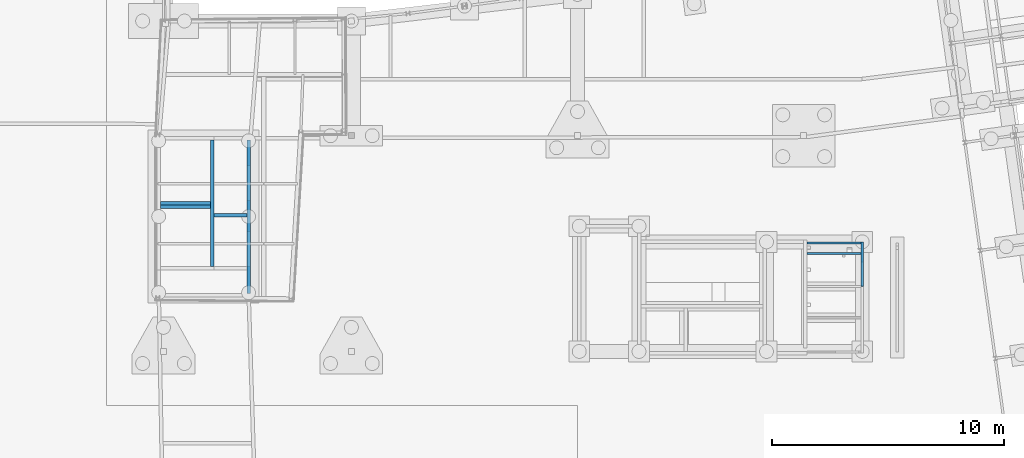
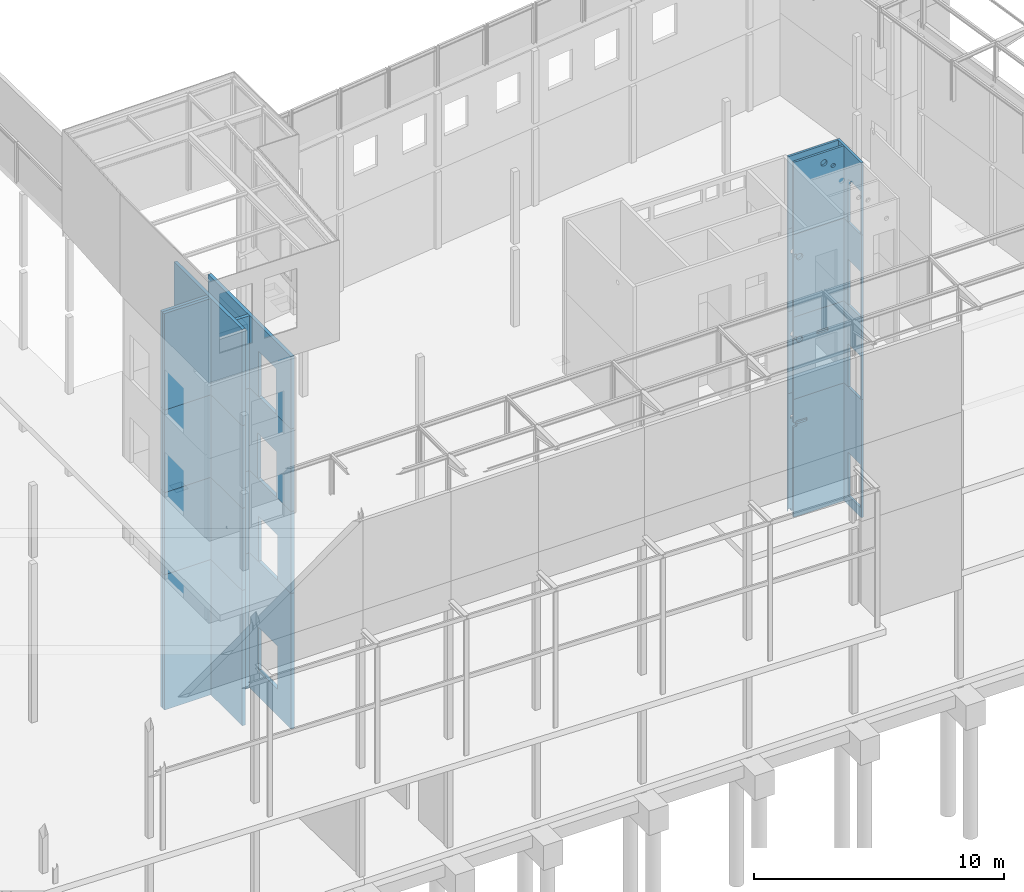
# One storey, part 76 of 82: 32 walls.
"""IFC2X3 building model written with IfcOpenShell, lengths in millimetres."""

from ifc_helpers import new_model, si_unit, frame, frame_2d, origin_with_axes, place, context, subcontext, project, spatial, polyline, rectangle, circle, outline, extrude, boolean, material, layer, layer_set, layer_usage, type_object, element, save


model = new_model("IFC2X3")

# Units and contexts
model_context = context("Model", 3, precision=1e-05, world=origin_with_axes())
body_context = subcontext(model_context, "Body", "Model", "MODEL_VIEW")
ifc_project = project(units=[si_unit("LENGTHUNIT", "METRE", prefix="MILLI"), si_unit("AREAUNIT", "SQUARE_METRE"), si_unit("VOLUMEUNIT", "CUBIC_METRE"), si_unit("MASSUNIT", "GRAM", prefix="KILO"), si_unit("TIMEUNIT", "SECOND"), si_unit("PLANEANGLEUNIT", "RADIAN"), si_unit("SOLIDANGLEUNIT", "STERADIAN"), si_unit("THERMODYNAMICTEMPERATUREUNIT", "DEGREE_CELSIUS"), si_unit("LUMINOUSINTENSITYUNIT", "LUMEN")], contexts=[model_context])

# Site, building, storey
site_placement = place(None, origin_with_axes())
site = spatial("IfcSite", under=ifc_project, at=site_placement, Name="Undefined", CompositionType="ELEMENT")
building_placement = place(site_placement, origin_with_axes())
building = spatial("IfcBuilding", under=site, at=building_placement, Name="Undefined", CompositionType="ELEMENT")
storey_placement = place(building_placement, origin_with_axes())
storey = spatial("IfcBuildingStorey", under=building, at=storey_placement, Name="Undefined", CompositionType="ELEMENT", Elevation=0.0)

# Walls
ifc_material = material(Name="CONCRETE/C25/30")
ifc_layer_1 = layer(ifc_material, 150.0)
ifc_layer_set_1 = layer_set([ifc_layer_1], Name="Wall: Insitu CONCRETE/C25/30")
ifc_layer_usage_1 = layer_usage(ifc_layer_set_1, "AXIS2", "POSITIVE", -75.0)
wall_type_1 = type_object("IfcWallType", Name="4025*150", PredefinedType="NOTDEFINED")
wall_1_placement = place(storey_placement, frame((31343.7636301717, 18415.0686918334, 9305.0), z_axis=(0.0, 0.0, 1.0), x_axis=(-2.77555756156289e-17, -1.0, 0.0)))
element("IfcWallStandardCase", 1, at=wall_1_placement, inside=storey, type_object=wall_type_1, material=ifc_layer_usage_1, Name="VOILE_15CM", ObjectType="4025*150", context=body_context, shape_type="SweptSolid", body=[
    extrude(rectangle(XDim=5449.99999996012, YDim=150.0, at=frame_2d((0.0, 2725.00000000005), x_axis=(0.0, -1.0))), frame((0.0, 0.0, 0.0), z_axis=(0.0, 0.0, 1.0), x_axis=(-2.77555756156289e-17, -1.0, 0.0)), (0.0, 0.0, 1.0), 4025.0),
])
ifc_layer_usage_2 = layer_usage(ifc_layer_set_1, "AXIS2", "POSITIVE", -75.0)
wall_2_placement = place(storey_placement, frame((31268.7636301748, 15690.0686918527, 9305.0), z_axis=(0.0, 0.0, 1.0), x_axis=(-1.0, 0.0, 0.0)))
element("IfcWallStandardCase", 2, at=wall_2_placement, inside=storey, type_object=wall_type_1, material=ifc_layer_usage_2, Name="VOILE_15CM", ObjectType="4025*150", context=body_context, shape_type="SweptSolid", body=[
    extrude(rectangle(XDim=2145.00000000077, YDim=150.0, at=frame_2d((0.0, 1072.50000000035), x_axis=(0.0, -1.0))), frame((0.0, 0.0, 0.0), z_axis=(0.0, 0.0, 1.0), x_axis=(-2.77555756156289e-17, -1.0, 0.0)), (0.0, 0.0, 1.0), 4025.0),
])
ifc_layer_usage_3 = layer_usage(ifc_layer_set_1, "AXIS2", "POSITIVE", -75.0)
wall_3_placement = place(storey_placement, frame((31268.7636301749, 15540.0686918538, 9305.0), z_axis=(0.0, 0.0, 1.0), x_axis=(-1.0, 0.0, 0.0)))
element("IfcWallStandardCase", 3, at=wall_3_placement, inside=storey, type_object=wall_type_1, material=ifc_layer_usage_3, Name="VOILE_15CM", ObjectType="4025*150", context=body_context, shape_type="SweptSolid", body=[
    extrude(rectangle(XDim=2145.00000000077, YDim=150.0, at=frame_2d((0.0, 1072.50000000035), x_axis=(0.0, -1.0))), frame((0.0, 0.0, 0.0), z_axis=(0.0, 0.0, 1.0), x_axis=(-2.77555756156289e-17, -1.0, 0.0)), (0.0, 0.0, 1.0), 4025.0),
])
ifc_layer_usage_4 = layer_usage(ifc_layer_set_1, "AXIS2", "POSITIVE", -75.0)
wall_4_placement = place(storey_placement, frame((31418.6225614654, 15175.9697770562, 9305.0), z_axis=(0.0, 0.0, 1.0), x_axis=(1.0, 0.0, 0.0)))
element("IfcWallStandardCase", 4, at=wall_4_placement, inside=storey, type_object=wall_type_1, material=ifc_layer_usage_4, Name="VOILE_15CM", ObjectType="4025*150", context=body_context, shape_type="SweptSolid", body=[
    extrude(rectangle(XDim=1429.97206241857, YDim=150.0, at=frame_2d((0.0, 715.127099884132), x_axis=(0.0, -1.0))), frame((0.0, 0.0, 0.0), z_axis=(0.0, 0.0, 1.0), x_axis=(-2.77555756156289e-17, -1.0, 0.0)), (0.0, 0.0, 1.0), 4025.0),
])
ifc_layer_usage_5 = layer_usage(ifc_layer_set_1, "AXIS2", "POSITIVE", -75.0)
wall_5_placement = place(storey_placement, frame((32923.7356925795, 11644.9226520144, 9305.0), z_axis=(0.0, 0.0, 1.0), x_axis=(0.0, 1.0, 0.0)))
element("IfcWallStandardCase", 5, at=wall_5_placement, inside=storey, type_object=wall_type_1, material=ifc_layer_usage_5, Name="VOILE_15CM", ObjectType="4025*150", context=body_context, shape_type="CSG", body=[
    boolean("DIFFERENCE", boolean("DIFFERENCE", extrude(rectangle(XDim=6620.14607964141, YDim=150.0, at=frame_2d((0.0, 3460.07299997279), x_axis=(0.0, -1.0))), frame((0.0, 0.0, 0.0), z_axis=(0.0, 0.0, 1.0), x_axis=(-2.77555756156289e-17, -1.0, 0.0)), (0.0, 0.0, 1.0), 4025.0), extrude(outline(polyline([(5.17284206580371e-08, 4.49290382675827e-10), (2220.0, -4.22005541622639e-10), (2220.0, 1499.99999999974), (0.0, 1499.99999999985), (5.17284206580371e-08, 4.49290382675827e-10)])), frame((4164.16465607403, 85.0000000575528, 2220.0), z_axis=(-2.77555756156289e-17, -1.0, 0.0), x_axis=(0.0, -6.50000002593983e-08, -0.999999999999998)), (0.0, 0.0, 1.0), 170.0)), extrude(outline(polyline([(5.17284206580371e-08, 4.49290382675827e-10), (2220.0, -4.22005541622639e-10), (2220.0, 1499.99999999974), (0.0, 1499.99999999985), (5.17284206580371e-08, 4.49290382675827e-10)])), frame((1320.14820569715, 85.0000000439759, 2220.0), z_axis=(-2.77555756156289e-17, -1.0, 0.0), x_axis=(0.0, -6.50000002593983e-08, -0.999999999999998)), (0.0, 0.0, 1.0), 170.0)),
])
ifc_layer_usage_6 = layer_usage(ifc_layer_set_1, "AXIS2", "POSITIVE", -75.0)
wall_type_2 = type_object("IfcWallType", Name="4005*150", PredefinedType="NOTDEFINED")
wall_6_placement = place(storey_placement, frame((31343.76363017, 18415.0686918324, 5300.0), z_axis=(0.0, 0.0, 1.0), x_axis=(-2.77555756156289e-17, -1.0, 0.0)))
element("IfcWallStandardCase", 6, at=wall_6_placement, inside=storey, type_object=wall_type_2, material=ifc_layer_usage_6, Name="VOILE_15CM", ObjectType="4005*150", context=body_context, shape_type="SweptSolid", body=[
    extrude(rectangle(XDim=5449.99999995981, YDim=150.0, at=frame_2d((0.0, 2725.00000000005), x_axis=(0.0, -1.0))), frame((0.0, 0.0, 0.0), z_axis=(0.0, 0.0, 1.0), x_axis=(-2.77555756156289e-17, -1.0, 0.0)), (0.0, 0.0, 1.0), 4005.0),
])
ifc_layer_usage_7 = layer_usage(ifc_layer_set_1, "AXIS2", "POSITIVE", -75.0)
wall_7_placement = place(storey_placement, frame((31268.763630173, 15690.0686918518, 5300.0), z_axis=(0.0, 0.0, 1.0), x_axis=(-1.0, 0.0, 0.0)))
element("IfcWallStandardCase", 7, at=wall_7_placement, inside=storey, type_object=wall_type_2, material=ifc_layer_usage_7, Name="VOILE_15CM", ObjectType="4005*150", context=body_context, shape_type="SweptSolid", body=[
    extrude(rectangle(XDim=2145.00000000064, YDim=150.0, at=frame_2d((0.0, 1072.50000000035), x_axis=(0.0, -1.0))), frame((0.0, 0.0, 0.0), z_axis=(0.0, 0.0, 1.0), x_axis=(-2.77555756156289e-17, -1.0, 0.0)), (0.0, 0.0, 1.0), 4005.0),
])
ifc_layer_usage_8 = layer_usage(ifc_layer_set_1, "AXIS2", "POSITIVE", -75.0)
wall_8_placement = place(storey_placement, frame((31268.7636301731, 15540.0686918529, 5300.0), z_axis=(0.0, 0.0, 1.0), x_axis=(-1.0, 0.0, 0.0)))
element("IfcWallStandardCase", 8, at=wall_8_placement, inside=storey, type_object=wall_type_2, material=ifc_layer_usage_8, Name="VOILE_15CM", ObjectType="4005*150", context=body_context, shape_type="SweptSolid", body=[
    extrude(rectangle(XDim=2145.00000000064, YDim=150.0, at=frame_2d((0.0, 1072.50000000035), x_axis=(0.0, -1.0))), frame((0.0, 0.0, 0.0), z_axis=(0.0, 0.0, 1.0), x_axis=(-2.77555756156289e-17, -1.0, 0.0)), (0.0, 0.0, 1.0), 4005.0),
])
ifc_layer_usage_9 = layer_usage(ifc_layer_set_1, "AXIS2", "POSITIVE", -75.0)
wall_9_placement = place(storey_placement, frame((31418.6225614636, 15175.9697770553, 5300.0), z_axis=(0.0, 0.0, 1.0), x_axis=(1.0, 0.0, 0.0)))
element("IfcWallStandardCase", 9, at=wall_9_placement, inside=storey, type_object=wall_type_2, material=ifc_layer_usage_9, Name="VOILE_15CM", ObjectType="4005*150", context=body_context, shape_type="SweptSolid", body=[
    extrude(rectangle(XDim=1429.97206241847, YDim=150.0, at=frame_2d((0.0, 715.127099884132), x_axis=(0.0, -1.0))), frame((0.0, 0.0, 0.0), z_axis=(0.0, 0.0, 1.0), x_axis=(-2.77555756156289e-17, -1.0, 0.0)), (0.0, 0.0, 1.0), 4005.0),
])
ifc_layer_usage_10 = layer_usage(ifc_layer_set_1, "AXIS2", "POSITIVE", -75.0)
wall_10_placement = place(storey_placement, frame((32923.7356925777, 11644.9226520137, 5300.0), z_axis=(0.0, 0.0, 1.0), x_axis=(0.0, 1.0, 0.0)))
element("IfcWallStandardCase", 10, at=wall_10_placement, inside=storey, type_object=wall_type_2, material=ifc_layer_usage_10, Name="VOILE_15CM", ObjectType="4005*150", context=body_context, shape_type="CSG", body=[
    boolean("DIFFERENCE", boolean("DIFFERENCE", extrude(rectangle(XDim=6620.14607964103, YDim=150.0, at=frame_2d((0.0, 3460.07299997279), x_axis=(0.0, -1.0))), frame((0.0, 0.0, 0.0), z_axis=(0.0, 0.0, 1.0), x_axis=(-2.77555756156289e-17, -1.0, 0.0)), (0.0, 0.0, 1.0), 4005.0), extrude(outline(polyline([(5.17284206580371e-08, 4.49290382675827e-10), (2200.0, 1.09139364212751e-11), (2200.0, 1499.99999999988), (0.0, 1499.99999999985), (5.17284206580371e-08, 4.49290382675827e-10)])), frame((4164.16465616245, 85.0000000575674, 2200.0), z_axis=(-2.77555756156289e-17, -1.0, 0.0), x_axis=(0.0, -6.50000002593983e-08, -0.999999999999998)), (0.0, 0.0, 1.0), 170.0)), extrude(outline(polyline([(5.17284206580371e-08, 4.49290382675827e-10), (2200.0, 1.09139364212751e-11), (2200.0, 1499.99999999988), (0.0, 1499.99999999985), (5.17284206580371e-08, 4.49290382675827e-10)])), frame((1250.0182056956, 85.0000000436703, 2200.0), z_axis=(-2.77555756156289e-17, -1.0, 0.0), x_axis=(0.0, -6.50000002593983e-08, -0.999999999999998)), (0.0, 0.0, 1.0), 170.0)),
])
ifc_layer_usage_11 = layer_usage(ifc_layer_set_1, "AXIS2", "POSITIVE", -75.0)
wall_type_3 = type_object("IfcWallType", Name="3530*150", PredefinedType="NOTDEFINED")
wall_11_placement = place(storey_placement, frame((31418.6225614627, 15175.9697770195, 13330.0), z_axis=(0.0, 0.0, 1.0), x_axis=(1.0, 0.0, 0.0)))
element("IfcWallStandardCase", 11, at=wall_11_placement, inside=storey, type_object=wall_type_3, material=ifc_layer_usage_11, Name="VOILE_15CM", ObjectType="3530*150", context=body_context, shape_type="SweptSolid", body=[
    extrude(rectangle(XDim=1429.97206242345, YDim=150.0, at=frame_2d((0.0, 715.127099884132), x_axis=(0.0, -1.0))), frame((0.0, 0.0, 0.0), z_axis=(0.0, 0.0, 1.0), x_axis=(-2.77555756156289e-17, -1.0, 0.0)), (0.0, 0.0, 1.0), 3530.0),
])
ifc_layer_usage_12 = layer_usage(ifc_layer_set_1, "AXIS2", "POSITIVE", -75.0)
wall_12_placement = place(storey_placement, frame((32923.7356925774, 11644.9226519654, 13330.0), z_axis=(0.0, 0.0, 1.0), x_axis=(0.0, 1.0, 0.0)))
element("IfcWallStandardCase", 12, at=wall_12_placement, inside=storey, type_object=wall_type_3, material=ifc_layer_usage_12, Name="VOILE_15CM", ObjectType="3530*150", context=body_context, shape_type="CSG", body=[
    boolean("DIFFERENCE", boolean("DIFFERENCE", extrude(rectangle(XDim=6620.14607963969, YDim=150.0, at=frame_2d((0.0, 3460.07299997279), x_axis=(0.0, -1.0))), frame((0.0, 0.0, 0.0), z_axis=(0.0, 0.0, 1.0), x_axis=(-2.77555756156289e-17, -1.0, 0.0)), (0.0, 0.0, 1.0), 3530.0), extrude(outline(polyline([(5.17284206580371e-08, 4.49290382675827e-10), (2220.0, -4.22005541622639e-10), (2220.0, 1499.99999999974), (0.0, 1499.99999999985), (5.17284206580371e-08, 4.49290382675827e-10)])), frame((4164.16465607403, 85.0000000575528, 2220.0), z_axis=(-2.77555756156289e-17, -1.0, 0.0), x_axis=(0.0, -6.50000002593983e-08, -0.999999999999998)), (0.0, 0.0, 1.0), 170.0)), extrude(outline(polyline([(5.17284206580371e-08, 4.49290382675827e-10), (2220.0, -4.22005541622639e-10), (2220.0, 1395.99999999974), (0.0, 1395.99999999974), (5.17284206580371e-08, 4.49290382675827e-10)])), frame((1354.10048047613, 85.0000000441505, 2220.0), z_axis=(-2.77555756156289e-17, -1.0, 0.0), x_axis=(0.0, -6.50000002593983e-08, -0.999999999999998)), (0.0, 0.0, 1.0), 170.0)),
])
ifc_layer_2 = layer(ifc_material, 100.0)
ifc_layer_set_2 = layer_set([ifc_layer_2], Name="Wall: Insitu CONCRETE/C25/30")
ifc_layer_usage_13 = layer_usage(ifc_layer_set_2, "AXIS2", "POSITIVE", -50.0)
wall_type_4 = type_object("IfcWallType", Name="3530*100", PredefinedType="NOTDEFINED")
wall_13_placement = place(storey_placement, frame((56999.9999999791, 13974.9999999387, 13330.0), z_axis=(0.0, 0.0, 1.0), x_axis=(1.0, 0.0, 0.0)))
element("IfcWallStandardCase", 13, at=wall_13_placement, inside=storey, type_object=wall_type_4, material=ifc_layer_usage_13, Name="VOILE_10CM", ObjectType="3530*100", context=body_context, shape_type="CSG", body=[
    boolean("DIFFERENCE", extrude(rectangle(XDim=2324.99999997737, YDim=100.0, at=frame_2d((0.0, 1162.49999998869), x_axis=(0.0, -1.0))), frame((0.0, 0.0, 0.0), z_axis=(0.0, 0.0, 1.0), x_axis=(-2.77555756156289e-17, -1.0, 0.0)), (0.0, 0.0, 1.0), 3530.0), extrude(circle(Radius=150.0, at=frame_2d((5.17284206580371e-08, 4.49290382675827e-10), x_axis=(1.0, 0.0))), frame((1400.085479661, -60.0, 3020.00163269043), z_axis=(0.0, 1.0, 0.0), x_axis=(-1.0, 0.0, 0.0)), (0.0, 0.0, 1.0), 120.0)),
])
ifc_layer_usage_14 = layer_usage(ifc_layer_set_2, "AXIS2", "POSITIVE", -50.0)
wall_14_placement = place(storey_placement, frame((56999.9999999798, 13524.9999999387, 13329.999957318), z_axis=(0.0, 0.0, 1.0), x_axis=(1.0, 0.0, 0.0)))
element("IfcWallStandardCase", 14, at=wall_14_placement, inside=storey, type_object=wall_type_4, material=ifc_layer_usage_14, Name="VOILE_10CM", ObjectType="3530*100", context=body_context, shape_type="CSG", body=[
    boolean("DIFFERENCE", boolean("DIFFERENCE", extrude(rectangle(XDim=2324.99999997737, YDim=100.0, at=frame_2d((0.0, 1162.49999998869), x_axis=(0.0, -1.0))), frame((0.0, 0.0, 0.0), z_axis=(0.0, 0.0, 1.0), x_axis=(-2.77555756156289e-17, -1.0, 0.0)), (0.0, 0.0, 1.0), 3530.0), extrude(circle(Radius=150.0, at=frame_2d((5.17284206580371e-08, 4.49290382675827e-10), x_axis=(1.0, 0.0))), frame((1400.08319085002, -60.0, 3020.00167537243), z_axis=(0.0, 1.0, 0.0), x_axis=(-1.0, 0.0, 0.0)), (0.0, 0.0, 1.0), 120.0)), extrude(circle(Radius=100.0, at=frame_2d((5.17284206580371e-08, 4.49290382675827e-10), x_axis=(1.0, 0.0))), frame((1824.8916930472, -60.0, 2744.58053279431), z_axis=(0.0, 1.0, 0.0), x_axis=(-1.0, 0.0, 0.0)), (0.0, 0.0, 1.0), 120.0)),
])
ifc_layer_usage_15 = layer_usage(ifc_layer_set_2, "AXIS2", "POSITIVE", -50.0)
wall_15_placement = place(storey_placement, frame((59374.9999999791, 14024.9999999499, 13330.0), z_axis=(0.0, 0.0, 1.0), x_axis=(-2.77555756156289e-17, -1.0, 0.0)))
element("IfcWallStandardCase", 15, at=wall_15_placement, inside=storey, type_object=wall_type_4, material=ifc_layer_usage_15, Name="VOILE_10CM", ObjectType="3530*100", context=body_context, shape_type="CSG", body=[
    boolean("DIFFERENCE", boolean("DIFFERENCE", boolean("DIFFERENCE", extrude(rectangle(XDim=1925.00000000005, YDim=100.0, at=frame_2d((0.0, 962.500000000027), x_axis=(0.0, -1.0))), frame((0.0, 0.0, 0.0), z_axis=(0.0, 0.0, 1.0), x_axis=(-2.77555756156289e-17, -1.0, 0.0)), (0.0, 0.0, 1.0), 3530.0), extrude(circle(Radius=75.0, at=frame_2d((5.17284206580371e-08, 4.49290382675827e-10), x_axis=(1.0, 0.0))), frame((263.99996969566, -60.0, 3477.5192565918), z_axis=(0.0, 1.0, 0.0), x_axis=(-1.0, 0.0, 0.0)), (0.0, 0.0, 1.0), 120.0)), extrude(outline(polyline([(5.17284206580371e-08, 4.49290382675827e-10), (2100.0, 5.82076609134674e-11), (2100.0, 1000.00000000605), (0.0, 1000.00000000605), (5.17284206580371e-08, 4.49290382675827e-10)])), frame((1875.00000014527, -60.0000000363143, 2100.0), z_axis=(0.0, 1.0, 0.0), x_axis=(0.0, -6.50000002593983e-08, -0.999999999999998)), (0.0, 0.0, 1.0), 120.0)), extrude(rectangle(XDim=1000.0, YDim=105.0692008, at=frame_2d((5.17284206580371e-08, 4.49290382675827e-10), x_axis=(1.0, 0.0))), frame((1375.00000001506, 150.00000000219, -52.5346004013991), z_axis=(-2.77555756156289e-17, -1.0, 0.0), x_axis=(1.0, 0.0, 0.0)), (0.0, 0.0, 1.0), 137.4)),
])
ifc_layer_usage_16 = layer_usage(ifc_layer_set_1, "AXIS2", "POSITIVE", -75.0)
wall_type_5 = type_object("IfcWallType", Name="4700*150", PredefinedType="NOTDEFINED")
wall_16_placement = place(storey_placement, frame((31343.7636301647, 18415.0686917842, 13330.0), z_axis=(0.0, 0.0, 1.0), x_axis=(-2.77555756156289e-17, -1.0, 0.0)))
element("IfcWallStandardCase", 16, at=wall_16_placement, inside=storey, type_object=wall_type_5, material=ifc_layer_usage_16, Name="VOILE_15CM", ObjectType="4700*150", context=body_context, shape_type="SweptSolid", body=[
    extrude(rectangle(XDim=5450.00000000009, YDim=150.0, at=frame_2d((0.0, 2725.00000000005), x_axis=(0.0, -1.0))), frame((0.0, 0.0, 0.0), z_axis=(0.0, 0.0, 1.0), x_axis=(-2.77555756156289e-17, -1.0, 0.0)), (0.0, 0.0, 1.0), 4700.0),
])
ifc_layer_usage_17 = layer_usage(ifc_layer_set_1, "AXIS2", "POSITIVE", -75.0)
wall_17_placement = place(storey_placement, frame((31268.763630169, 15690.068691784, 13330.0), z_axis=(0.0, 0.0, 1.0), x_axis=(-1.0, 0.0, 0.0)))
element("IfcWallStandardCase", 17, at=wall_17_placement, inside=storey, type_object=wall_type_5, material=ifc_layer_usage_17, Name="VOILE_15CM", ObjectType="4700*150", context=body_context, shape_type="SweptSolid", body=[
    extrude(rectangle(XDim=2145.00000000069, YDim=150.0, at=frame_2d((0.0, 1072.50000000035), x_axis=(0.0, -1.0))), frame((0.0, 0.0, 0.0), z_axis=(0.0, 0.0, 1.0), x_axis=(-2.77555756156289e-17, -1.0, 0.0)), (0.0, 0.0, 1.0), 4700.0),
])
ifc_layer_usage_18 = layer_usage(ifc_layer_set_1, "AXIS2", "POSITIVE", -75.0)
wall_18_placement = place(storey_placement, frame((31268.7636301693, 15540.068691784, 13330.0), z_axis=(0.0, 0.0, 1.0), x_axis=(-1.0, 0.0, 0.0)))
element("IfcWallStandardCase", 18, at=wall_18_placement, inside=storey, type_object=wall_type_5, material=ifc_layer_usage_18, Name="VOILE_15CM", ObjectType="4700*150", context=body_context, shape_type="SweptSolid", body=[
    extrude(rectangle(XDim=2145.00000000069, YDim=150.0, at=frame_2d((0.0, 1072.50000000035), x_axis=(0.0, -1.0))), frame((0.0, 0.0, 0.0), z_axis=(0.0, 0.0, 1.0), x_axis=(-2.77555756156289e-17, -1.0, 0.0)), (0.0, 0.0, 1.0), 4700.0),
])
ifc_layer_usage_19 = layer_usage(ifc_layer_set_2, "AXIS2", "POSITIVE", -50.0)
wall_type_6 = type_object("IfcWallType", Name="4025*100", PredefinedType="NOTDEFINED")
wall_19_placement = place(storey_placement, frame((56999.9999999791, 13974.9999999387, 9305.0), z_axis=(0.0, 0.0, 1.0), x_axis=(1.0, 0.0, 0.0)))
element("IfcWallStandardCase", 19, at=wall_19_placement, inside=storey, type_object=wall_type_6, material=ifc_layer_usage_19, Name="VOILE_10CM", ObjectType="4025*100", context=body_context, shape_type="CSG", body=[
    boolean("DIFFERENCE", extrude(rectangle(XDim=2324.99999997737, YDim=100.0, at=frame_2d((0.0, 1162.49999998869), x_axis=(0.0, -1.0))), frame((0.0, 0.0, 0.0), z_axis=(0.0, 0.0, 1.0), x_axis=(-2.77555756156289e-17, -1.0, 0.0)), (0.0, 0.0, 1.0), 4025.0), extrude(circle(Radius=150.0, at=frame_2d((5.17284206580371e-08, 4.49290382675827e-10), x_axis=(1.0, 0.0))), frame((273.545422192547, -60.0, 2870.00038146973), z_axis=(0.0, 1.0, 0.0), x_axis=(-1.0, 0.0, 0.0)), (0.0, 0.0, 1.0), 120.0)),
])
ifc_layer_usage_20 = layer_usage(ifc_layer_set_2, "AXIS2", "POSITIVE", -50.0)
wall_20_placement = place(storey_placement, frame((56999.9999999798, 13524.9999999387, 9304.999957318), z_axis=(0.0, 0.0, 1.0), x_axis=(1.0, 0.0, 0.0)))
element("IfcWallStandardCase", 20, at=wall_20_placement, inside=storey, type_object=wall_type_6, material=ifc_layer_usage_20, Name="VOILE_10CM", ObjectType="4025*100", context=body_context, shape_type="CSG", body=[
    boolean("DIFFERENCE", boolean("DIFFERENCE", extrude(rectangle(XDim=2324.99999997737, YDim=100.0, at=frame_2d((0.0, 1162.49999998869), x_axis=(0.0, -1.0))), frame((0.0, 0.0, 0.0), z_axis=(0.0, 0.0, 1.0), x_axis=(-2.77555756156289e-17, -1.0, 0.0)), (0.0, 0.0, 1.0), 4025.0), extrude(circle(Radius=150.0, at=frame_2d((5.17284206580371e-08, 4.49290382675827e-10), x_axis=(1.0, 0.0))), frame((273.568310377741, -60.0, 2870.00042415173), z_axis=(0.0, 1.0, 0.0), x_axis=(-1.0, 0.0, 0.0)), (0.0, 0.0, 1.0), 120.0)), extrude(circle(Radius=70.0, at=frame_2d((5.17284206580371e-08, 4.49290382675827e-10), x_axis=(1.0, 0.0))), frame((73.9988310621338, -60.0, 2992.51825404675), z_axis=(0.0, 1.0, 0.0), x_axis=(-1.0, 0.0, 0.0)), (0.0, 0.0, 1.0), 120.0)),
])
ifc_layer_usage_21 = layer_usage(ifc_layer_set_2, "AXIS2", "POSITIVE", -50.0)
wall_21_placement = place(storey_placement, frame((59374.9999999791, 14024.9999999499, 9305.0), z_axis=(0.0, 0.0, 1.0), x_axis=(-2.77555756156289e-17, -1.0, 0.0)))
element("IfcWallStandardCase", 21, at=wall_21_placement, inside=storey, type_object=wall_type_6, material=ifc_layer_usage_21, Name="VOILE_10CM", ObjectType="4025*100", context=body_context, shape_type="CSG", body=[
    boolean("DIFFERENCE", boolean("DIFFERENCE", extrude(rectangle(XDim=1925.00000000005, YDim=100.0, at=frame_2d((0.0, 962.500000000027), x_axis=(0.0, -1.0))), frame((0.0, 0.0, 0.0), z_axis=(0.0, 0.0, 1.0), x_axis=(-2.77555756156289e-17, -1.0, 0.0)), (0.0, 0.0, 1.0), 4025.0), extrude(outline(polyline([(5.17284206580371e-08, 4.49290382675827e-10), (2200.0, 1.09139364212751e-11), (2200.0, 1000.00000000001), (0.0, 1000.00000000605), (5.17284206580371e-08, 4.49290382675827e-10)])), frame((1875.00000014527, -60.0000000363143, 2200.0), z_axis=(0.0, 1.0, 0.0), x_axis=(0.0, -6.50000002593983e-08, -0.999999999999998)), (0.0, 0.0, 1.0), 120.0)), extrude(rectangle(XDim=1000.0, YDim=105.0692008, at=frame_2d((5.17284206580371e-08, 4.49290382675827e-10), x_axis=(1.0, 0.0))), frame((1375.00000001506, 150.00000000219, -52.5346004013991), z_axis=(-2.77555756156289e-17, -1.0, 0.0), x_axis=(1.0, 0.0, 0.0)), (0.0, 0.0, 1.0), 137.4)),
])
ifc_layer_usage_22 = layer_usage(ifc_layer_set_2, "AXIS2", "POSITIVE", -50.0)
wall_type_7 = type_object("IfcWallType", Name="4005*100", PredefinedType="NOTDEFINED")
wall_22_placement = place(storey_placement, frame((56999.9999999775, 13974.9999999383, 5300.0), z_axis=(0.0, 0.0, 1.0), x_axis=(1.0, 0.0, 0.0)))
element("IfcWallStandardCase", 22, at=wall_22_placement, inside=storey, type_object=wall_type_7, material=ifc_layer_usage_22, Name="VOILE_10CM", ObjectType="4005*100", context=body_context, shape_type="CSG", body=[
    boolean("DIFFERENCE", boolean("DIFFERENCE", extrude(rectangle(XDim=2325.00000000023, YDim=100.0, at=frame_2d((0.0, 1162.49999998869), x_axis=(0.0, -1.0))), frame((0.0, 0.0, 0.0), z_axis=(0.0, 0.0, 1.0), x_axis=(-2.77555756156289e-17, -1.0, 0.0)), (0.0, 0.0, 1.0), 4005.0), extrude(circle(Radius=150.0, at=frame_2d((5.17284206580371e-08, 4.49290382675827e-10), x_axis=(1.0, 0.0))), frame((273.833431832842, -60.0, 2850.00076293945), z_axis=(0.0, 1.0, 0.0), x_axis=(-1.0, 0.0, 0.0)), (0.0, 0.0, 1.0), 120.0)), extrude(rectangle(XDim=500.0, YDim=150.0, at=frame_2d((5.17284206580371e-08, 4.49290382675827e-10), x_axis=(1.0, 0.0))), frame((1336.0000914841, -60.0, 2890.00083160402), z_axis=(0.0, 1.0, 0.0), x_axis=(-1.0, 0.0, 0.0)), (0.0, 0.0, 1.0), 120.0)),
])
ifc_layer_usage_23 = layer_usage(ifc_layer_set_2, "AXIS2", "POSITIVE", -50.0)
wall_23_placement = place(storey_placement, frame((56999.9999999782, 13524.9999999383, 5299.999957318), z_axis=(0.0, 0.0, 1.0), x_axis=(1.0, 0.0, 0.0)))
element("IfcWallStandardCase", 23, at=wall_23_placement, inside=storey, type_object=wall_type_7, material=ifc_layer_usage_23, Name="VOILE_10CM", ObjectType="4005*100", context=body_context, shape_type="CSG", body=[
    boolean("DIFFERENCE", boolean("DIFFERENCE", boolean("DIFFERENCE", extrude(rectangle(XDim=2325.00000000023, YDim=100.0, at=frame_2d((0.0, 1162.49999998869), x_axis=(0.0, -1.0))), frame((0.0, 0.0, 0.0), z_axis=(0.0, 0.0, 1.0), x_axis=(-2.77555756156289e-17, -1.0, 0.0)), (0.0, 0.0, 1.0), 4005.0), extrude(circle(Radius=150.0, at=frame_2d((5.17284206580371e-08, 4.49290382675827e-10), x_axis=(1.0, 0.0))), frame((274.083294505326, -60.0, 2850.00080562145), z_axis=(0.0, 1.0, 0.0), x_axis=(-1.0, 0.0, 0.0)), (0.0, 0.0, 1.0), 120.0)), extrude(circle(Radius=70.0, at=frame_2d((5.17284206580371e-08, 4.49290382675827e-10), x_axis=(1.0, 0.0))), frame((74.530758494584, -60.0, 2971.62502742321), z_axis=(0.0, 1.0, 0.0), x_axis=(-1.0, 0.0, 0.0)), (0.0, 0.0, 1.0), 120.0)), extrude(rectangle(XDim=500.0, YDim=150.0, at=frame_2d((5.17284206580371e-08, 4.49290382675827e-10), x_axis=(1.0, 0.0))), frame((1335.99780266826, -60.0, 2890.00087428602), z_axis=(0.0, 1.0, 0.0), x_axis=(-1.0, 0.0, 0.0)), (0.0, 0.0, 1.0), 120.0)),
])
ifc_layer_usage_24 = layer_usage(ifc_layer_set_2, "AXIS2", "POSITIVE", -50.0)
wall_24_placement = place(storey_placement, frame((59374.9999999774, 14024.9999999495, 5300.0), z_axis=(0.0, 0.0, 1.0), x_axis=(-2.77555756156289e-17, -1.0, 0.0)))
element("IfcWallStandardCase", 24, at=wall_24_placement, inside=storey, type_object=wall_type_7, material=ifc_layer_usage_24, Name="VOILE_10CM", ObjectType="4005*100", context=body_context, shape_type="CSG", body=[
    boolean("DIFFERENCE", boolean("DIFFERENCE", extrude(rectangle(XDim=1925.0, YDim=100.0, at=frame_2d((0.0, 962.500000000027), x_axis=(0.0, -1.0))), frame((0.0, 0.0, 0.0), z_axis=(0.0, 0.0, 1.0), x_axis=(-2.77555756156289e-17, -1.0, 0.0)), (0.0, 0.0, 1.0), 4005.0), extrude(outline(polyline([(5.17284206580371e-08, 4.49290382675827e-10), (2100.0, 5.82076609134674e-11), (2100.0, 1000.00000000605), (0.0, 1000.00000000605), (5.17284206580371e-08, 4.49290382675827e-10)])), frame((1875.00000014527, -60.0000000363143, 2100.0), z_axis=(0.0, 1.0, 0.0), x_axis=(0.0, -6.50000002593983e-08, -0.999999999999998)), (0.0, 0.0, 1.0), 120.0)), extrude(rectangle(XDim=1000.0, YDim=105.0692008, at=frame_2d((5.17284206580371e-08, 4.49290382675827e-10), x_axis=(1.0, 0.0))), frame((1375.00000001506, 150.00000000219, -52.5346004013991), z_axis=(-2.77555756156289e-17, -1.0, 0.0), x_axis=(1.0, 0.0, 0.0)), (0.0, 0.0, 1.0), 137.4)),
])
ifc_layer_usage_25 = layer_usage(ifc_layer_set_2, "AXIS2", "POSITIVE", -50.0)
wall_type_8 = type_object("IfcWallType", Name="5750*100", PredefinedType="NOTDEFINED")
wall_25_placement = place(storey_placement, frame((59374.9999999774, 14024.9999999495, -450.0), z_axis=(0.0, 0.0, 1.0), x_axis=(-2.77555756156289e-17, -1.0, 0.0)))
element("IfcWallStandardCase", 25, at=wall_25_placement, inside=storey, type_object=wall_type_8, material=ifc_layer_usage_25, Name="VOILE_10CM", ObjectType="5750*100", context=body_context, shape_type="CSG", body=[
    boolean("DIFFERENCE", boolean("DIFFERENCE", extrude(rectangle(XDim=1925.0, YDim=100.0, at=frame_2d((0.0, 962.500000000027), x_axis=(0.0, -1.0))), frame((0.0, 0.0, 0.0), z_axis=(0.0, 0.0, 1.0), x_axis=(-2.77555756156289e-17, -1.0, 0.0)), (0.0, 0.0, 1.0), 5750.0), extrude(outline(polyline([(5.17284206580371e-08, 4.49290382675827e-10), (2100.0, 5.82076609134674e-11), (2100.0, 1000.00000000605), (0.0, 1000.00000000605), (5.17284206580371e-08, 4.49290382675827e-10)])), frame((1875.00000014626, -60.0000000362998, 2550.0), z_axis=(0.0, 1.0, 0.0), x_axis=(0.0, -6.50000002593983e-08, -0.999999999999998)), (0.0, 0.0, 1.0), 120.0)), extrude(rectangle(XDim=1000.0, YDim=105.0692008, at=frame_2d((5.17284206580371e-08, 4.49290382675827e-10), x_axis=(1.0, 0.0))), frame((1375.00000001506, 150.00000000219, -52.5346004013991), z_axis=(-2.77555756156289e-17, -1.0, 0.0), x_axis=(1.0, 0.0, 0.0)), (0.0, 0.0, 1.0), 137.4)),
])
ifc_layer_usage_26 = layer_usage(ifc_layer_set_2, "AXIS2", "POSITIVE", -50.0)
wall_26_placement = place(storey_placement, frame((56999.9999999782, 13524.9999999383, -450.000042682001), z_axis=(0.0, 0.0, 1.0), x_axis=(1.0, 0.0, 0.0)))
element("IfcWallStandardCase", 26, at=wall_26_placement, inside=storey, type_object=wall_type_8, material=ifc_layer_usage_26, Name="VOILE_10CM", ObjectType="5750*100", context=body_context, shape_type="CSG", body=[
    boolean("DIFFERENCE", boolean("DIFFERENCE", extrude(rectangle(XDim=2325.00000000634, YDim=100.0, at=frame_2d((0.0, 1162.49999998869), x_axis=(0.0, -1.0))), frame((0.0, 0.0, 0.0), z_axis=(0.0, 0.0, 1.0), x_axis=(-2.77555756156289e-17, -1.0, 0.0)), (0.0, 0.0, 1.0), 5750.0), extrude(rectangle(XDim=150.0, YDim=200.0, at=frame_2d((5.17284206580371e-08, 4.49290382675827e-10), x_axis=(1.0, 0.0))), frame((74.9987487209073, -60.0, 4499.96577453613), z_axis=(0.0, 1.0, 0.0), x_axis=(-1.0, 0.0, 0.0)), (0.0, 0.0, 1.0), 120.0)), extrude(rectangle(XDim=500.0, YDim=150.0, at=frame_2d((5.17284206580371e-08, 4.49290382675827e-10), x_axis=(1.0, 0.0))), frame((368.997222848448, -60.0, 4589.99968719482), z_axis=(0.0, 1.0, 0.0), x_axis=(-1.0, 0.0, 0.0)), (0.0, 0.0, 1.0), 120.0)),
])
ifc_layer_usage_27 = layer_usage(ifc_layer_set_2, "AXIS2", "POSITIVE", -50.0)
wall_27_placement = place(storey_placement, frame((56999.9999999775, 13974.9999999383, -450.0), z_axis=(0.0, 0.0, 1.0), x_axis=(1.0, 0.0, 0.0)))
element("IfcWallStandardCase", 27, at=wall_27_placement, inside=storey, type_object=wall_type_8, material=ifc_layer_usage_27, Name="VOILE_10CM", ObjectType="5750*100", context=body_context, shape_type="CSG", body=[
    boolean("DIFFERENCE", boolean("DIFFERENCE", extrude(rectangle(XDim=2325.00000000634, YDim=100.0, at=frame_2d((0.0, 1162.49999998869), x_axis=(0.0, -1.0))), frame((0.0, 0.0, 0.0), z_axis=(0.0, 0.0, 1.0), x_axis=(-2.77555756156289e-17, -1.0, 0.0)), (0.0, 0.0, 1.0), 5750.0), extrude(rectangle(XDim=130.0, YDim=130.0, at=frame_2d((5.17284206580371e-08, 4.49290382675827e-10), x_axis=(1.0, 0.0))), frame((73.9986082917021, -60.0, 63.5570526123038), z_axis=(0.0, 1.0, 0.0), x_axis=(-1.0, 0.0, 0.0)), (0.0, 0.0, 1.0), 120.0)), extrude(rectangle(XDim=500.0, YDim=150.0, at=frame_2d((5.17284206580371e-08, 4.49290382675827e-10), x_axis=(1.0, 0.0))), frame((368.999511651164, -60.0, 4589.99968719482), z_axis=(0.0, 1.0, 0.0), x_axis=(-1.0, 0.0, 0.0)), (0.0, 0.0, 1.0), 120.0)),
])
ifc_layer_usage_28 = layer_usage(ifc_layer_set_1, "AXIS2", "POSITIVE", -75.0)
wall_type_9 = type_object("IfcWallType", Name="6600*150", PredefinedType="NOTDEFINED")
wall_28_placement = place(storey_placement, frame((31268.7636301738, 15690.0686918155, -1300.0), z_axis=(0.0, 0.0, 1.0), x_axis=(-1.0, 0.0, 0.0)))
element("IfcWallStandardCase", 28, at=wall_28_placement, inside=storey, type_object=wall_type_9, material=ifc_layer_usage_28, Name="VOILE_15CM", ObjectType="6600*150", context=body_context, shape_type="SweptSolid", body=[
    extrude(rectangle(XDim=2145.00000000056, YDim=150.0, at=frame_2d((0.0, 1072.50000000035), x_axis=(0.0, -1.0))), frame((0.0, 0.0, 0.0), z_axis=(0.0, 0.0, 1.0), x_axis=(-2.77555756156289e-17, -1.0, 0.0)), (0.0, 0.0, 1.0), 6600.0),
])
ifc_layer_usage_29 = layer_usage(ifc_layer_set_1, "AXIS2", "POSITIVE", -75.0)
wall_29_placement = place(storey_placement, frame((31268.763630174, 15540.0686918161, -1300.0), z_axis=(0.0, 0.0, 1.0), x_axis=(-1.0, 0.0, 0.0)))
element("IfcWallStandardCase", 29, at=wall_29_placement, inside=storey, type_object=wall_type_9, material=ifc_layer_usage_29, Name="VOILE_15CM", ObjectType="6600*150", context=body_context, shape_type="SweptSolid", body=[
    extrude(rectangle(XDim=2145.00000000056, YDim=150.0, at=frame_2d((0.0, 1072.50000000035), x_axis=(0.0, -1.0))), frame((0.0, 0.0, 0.0), z_axis=(0.0, 0.0, 1.0), x_axis=(-2.77555756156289e-17, -1.0, 0.0)), (0.0, 0.0, 1.0), 6600.0),
])
ifc_layer_usage_30 = layer_usage(ifc_layer_set_1, "AXIS2", "POSITIVE", -75.0)
wall_30_placement = place(storey_placement, frame((31343.7636301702, 18415.0686918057, -1300.0), z_axis=(0.0, 0.0, 1.0), x_axis=(-2.77555756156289e-17, -1.0, 0.0)))
element("IfcWallStandardCase", 30, at=wall_30_placement, inside=storey, type_object=wall_type_9, material=ifc_layer_usage_30, Name="VOILE_15CM", ObjectType="6600*150", context=body_context, shape_type="SweptSolid", body=[
    extrude(rectangle(XDim=5449.99999997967, YDim=150.0, at=frame_2d((0.0, 2725.00000000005), x_axis=(0.0, -1.0))), frame((0.0, 0.0, 0.0), z_axis=(0.0, 0.0, 1.0), x_axis=(-2.77555756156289e-17, -1.0, 0.0)), (0.0, 0.0, 1.0), 6600.0),
])
ifc_layer_usage_31 = layer_usage(ifc_layer_set_1, "AXIS2", "POSITIVE", -75.0)
wall_31_placement = place(storey_placement, frame((31418.6225614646, 15175.9697770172, -1300.0), z_axis=(0.0, 0.0, 1.0), x_axis=(1.0, 0.0, 0.0)))
element("IfcWallStandardCase", 31, at=wall_31_placement, inside=storey, type_object=wall_type_9, material=ifc_layer_usage_31, Name="VOILE_15CM", ObjectType="6600*150", context=body_context, shape_type="SweptSolid", body=[
    extrude(rectangle(XDim=1429.97206242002, YDim=150.0, at=frame_2d((0.0, 715.127099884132), x_axis=(0.0, -1.0))), frame((0.0, 0.0, 0.0), z_axis=(0.0, 0.0, 1.0), x_axis=(-2.77555756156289e-17, -1.0, 0.0)), (0.0, 0.0, 1.0), 6600.0),
])
ifc_layer_usage_32 = layer_usage(ifc_layer_set_1, "AXIS2", "POSITIVE", -75.0)
wall_32_placement = place(storey_placement, frame((32923.7356925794, 11644.9226519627, -1300.0), z_axis=(0.0, 0.0, 1.0), x_axis=(0.0, 1.0, 0.0)))
element("IfcWallStandardCase", 32, at=wall_32_placement, inside=storey, type_object=wall_type_9, material=ifc_layer_usage_32, Name="VOILE_15CM", ObjectType="6600*150", context=body_context, shape_type="CSG", body=[
    boolean("DIFFERENCE", boolean("DIFFERENCE", extrude(rectangle(XDim=6620.14607966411, YDim=150.0, at=frame_2d((0.0, 3460.07299997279), x_axis=(0.0, -1.0))), frame((0.0, 0.0, 0.0), z_axis=(0.0, 0.0, 1.0), x_axis=(-2.77555756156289e-17, -1.0, 0.0)), (0.0, 0.0, 1.0), 6600.0), extrude(outline(polyline([(5.17284206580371e-08, 4.49290382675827e-10), (2100.0, 5.82076609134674e-11), (2100.0, 1499.99999999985), (0.0, 1499.99999999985), (5.17284206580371e-08, 4.49290382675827e-10)])), frame((4164.16465595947, 85.0000000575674, 3400.0), z_axis=(-2.77555756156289e-17, -1.0, 0.0), x_axis=(0.0, -6.50000002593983e-08, -0.999999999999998)), (0.0, 0.0, 1.0), 170.0)), extrude(outline(polyline([(5.17284206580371e-08, 4.49290382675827e-10), (2100.0, 5.82076609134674e-11), (2100.0, 1499.99999999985), (0.0, 1499.99999999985), (5.17284206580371e-08, 4.49290382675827e-10)])), frame((1250.01820542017, 85.0000000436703, 3400.0), z_axis=(-2.77555756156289e-17, -1.0, 0.0), x_axis=(0.0, -6.50000002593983e-08, -0.999999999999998)), (0.0, 0.0, 1.0), 170.0)),
])

save(model, "model.ifc")
